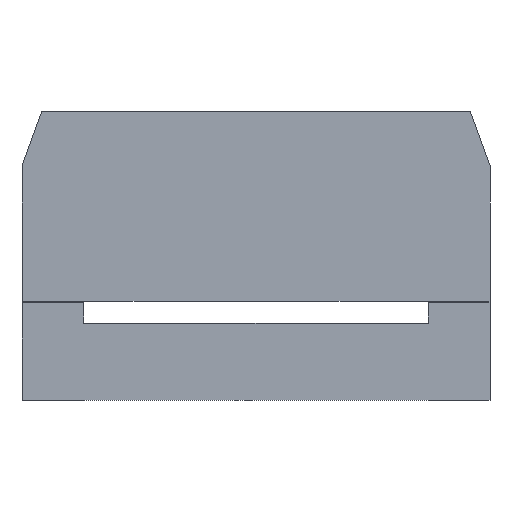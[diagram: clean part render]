
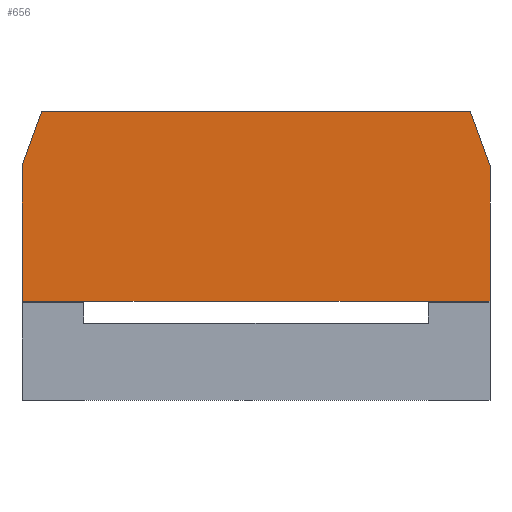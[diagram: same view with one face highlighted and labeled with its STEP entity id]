
A CAD part, front view. The second image highlights one B-rep face of the part: STEP entity #656.
In plain terms, the highlighted planar face has unit normal (0, -1, 0).
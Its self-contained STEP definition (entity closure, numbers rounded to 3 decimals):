
#203 = VERTEX_POINT ( 'NONE', #1876 ) ;
#205 = EDGE_CURVE ( 'NONE', #203, #206, #1875, .T. ) ;
#206 = VERTEX_POINT ( 'NONE', #1871 ) ;
#648 = EDGE_LOOP ( 'NONE', ( #657, #826, #828, #829, #805, #807 ) ) ;
#656 = ADVANCED_FACE ( 'NONE', ( #2665 ), #2663, .F. ) ;
#657 = ORIENTED_EDGE ( 'NONE', *, *, #658, .F. ) ;
#658 = EDGE_CURVE ( 'NONE', #659, #680, #2664, .T. ) ;
#659 = VERTEX_POINT ( 'NONE', #2630 ) ;
#678 = EDGE_CURVE ( 'NONE', #679, #680, #2590, .T. ) ;
#679 = VERTEX_POINT ( 'NONE', #2586 ) ;
#680 = VERTEX_POINT ( 'NONE', #2585 ) ;
#805 = ORIENTED_EDGE ( 'NONE', *, *, #806, .T. ) ;
#806 = EDGE_CURVE ( 'NONE', #831, #679, #2786, .T. ) ;
#807 = ORIENTED_EDGE ( 'NONE', *, *, #678, .T. ) ;
#826 = ORIENTED_EDGE ( 'NONE', *, *, #827, .T. ) ;
#827 = EDGE_CURVE ( 'NONE', #659, #206, #2927, .T. ) ;
#828 = ORIENTED_EDGE ( 'NONE', *, *, #205, .F. ) ;
#829 = ORIENTED_EDGE ( 'NONE', *, *, #830, .T. ) ;
#830 = EDGE_CURVE ( 'NONE', #203, #831, #2923, .T. ) ;
#831 = VERTEX_POINT ( 'NONE', #2919 ) ;
#1871 = CARTESIAN_POINT ( 'NONE',  ( 7.902, -3., 7. ) ) ;
#1872 = DIRECTION ( 'NONE',  ( 1., 0., 0. ) ) ;
#1873 = VECTOR ( 'NONE', #1872, 1000. ) ;
#1874 = CARTESIAN_POINT ( 'NONE',  ( -8.63, -3., 7. ) ) ;
#1875 = LINE ( 'NONE', #1874, #1873 ) ;
#1876 = CARTESIAN_POINT ( 'NONE',  ( -7.902, -3., 7. ) ) ;
#2585 = CARTESIAN_POINT ( 'NONE',  ( 8.63, -3., 0. ) ) ;
#2586 = CARTESIAN_POINT ( 'NONE',  ( -8.63, -3., 0. ) ) ;
#2587 = DIRECTION ( 'NONE',  ( 1., 0., 0. ) ) ;
#2588 = VECTOR ( 'NONE', #2587, 1000. ) ;
#2589 = CARTESIAN_POINT ( 'NONE',  ( -8.63, -3., 0. ) ) ;
#2590 = LINE ( 'NONE', #2589, #2588 ) ;
#2630 = CARTESIAN_POINT ( 'NONE',  ( 8.63, -3., 5. ) ) ;
#2631 = VECTOR ( 'NONE', #2657, 1000. ) ;
#2657 = DIRECTION ( 'NONE',  ( 0., 0., -1. ) ) ;
#2658 = CARTESIAN_POINT ( 'NONE',  ( 8.63, -3., 7. ) ) ;
#2659 = DIRECTION ( 'NONE',  ( 0., 0., 1. ) ) ;
#2660 = DIRECTION ( 'NONE',  ( 0., 1., 0. ) ) ;
#2661 = CARTESIAN_POINT ( 'NONE',  ( -8.63, -3., 7. ) ) ;
#2662 = AXIS2_PLACEMENT_3D ( 'NONE', #2661, #2660, #2659 ) ;
#2663 = PLANE ( 'NONE',  #2662 ) ;
#2664 = LINE ( 'NONE', #2658, #2631 ) ;
#2665 = FACE_OUTER_BOUND ( 'NONE', #648, .T. ) ;
#2783 = DIRECTION ( 'NONE',  ( 0., 0., -1. ) ) ;
#2784 = VECTOR ( 'NONE', #2783, 1000. ) ;
#2785 = CARTESIAN_POINT ( 'NONE',  ( -8.63, -3., 7. ) ) ;
#2786 = LINE ( 'NONE', #2785, #2784 ) ;
#2919 = CARTESIAN_POINT ( 'NONE',  ( -8.63, -3., 5. ) ) ;
#2920 = DIRECTION ( 'NONE',  ( -0.342, 0., -0.94 ) ) ;
#2921 = VECTOR ( 'NONE', #2920, 1000. ) ;
#2922 = CARTESIAN_POINT ( 'NONE',  ( -7.902, -3., 7. ) ) ;
#2923 = LINE ( 'NONE', #2922, #2921 ) ;
#2924 = DIRECTION ( 'NONE',  ( -0.342, 0., 0.94 ) ) ;
#2925 = VECTOR ( 'NONE', #2924, 1000. ) ;
#2926 = CARTESIAN_POINT ( 'NONE',  ( 7.902, -3., 7. ) ) ;
#2927 = LINE ( 'NONE', #2926, #2925 ) ;
